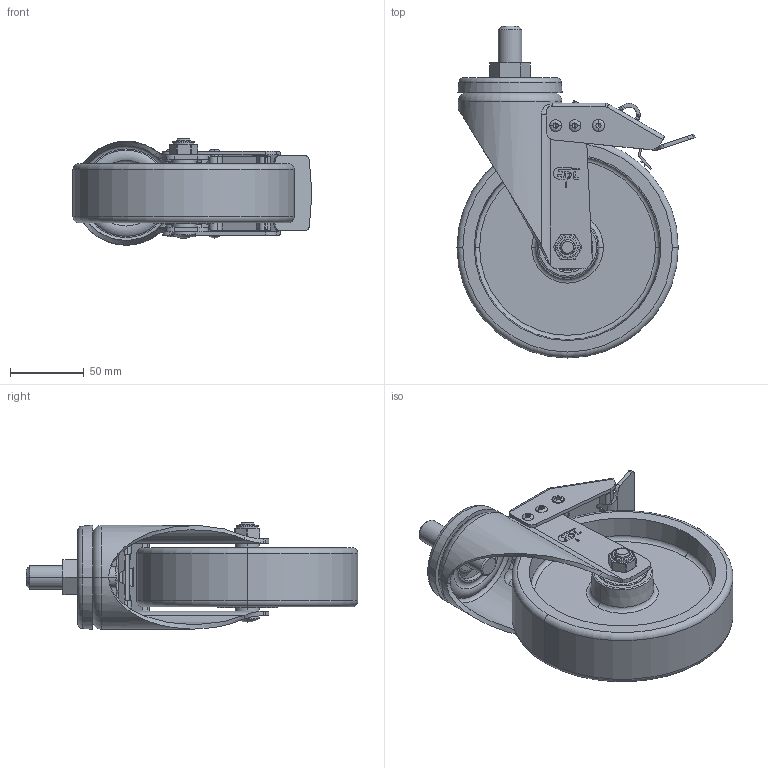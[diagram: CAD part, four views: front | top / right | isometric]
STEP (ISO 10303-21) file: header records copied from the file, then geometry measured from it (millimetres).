
FILE_DESCRIPTION((''),'2;1');
FILE_NAME('66146LM16X25_ASM_1_ASM','2024-04-30T',('Lenovo'),(''),'PRO/ENGINEER BY PARAMETRIC TECHNOLOGY CORPORATION, 2010280','PRO/ENGINEER BY PARAMETRIC TECHNOLOGY CORPORATION, 2010280','');
FILE_SCHEMA(('CONFIG_CONTROL_DESIGN'));
Length unit declared in the file: millimetre
Products named in the file (31): 6610-053M16X25_2; 6610-251_1; 6616-311_3; 676-986A_2; MANIFOLD_SOLID_BREP_14229; MANIFOLD_SOLID_BREP_14597; MANIFOLD_SOLID_BREP_14635; MANIFOLD_SOLID_BREP_14673; MANIFOLD_SOLID_BREP_14711; MANIFOLD_SOLID_BREP_14749; MANIFOLD_SOLID_BREP_14787; MANIFOLD_SOLID_BREP_14825; MANIFOLD_SOLID_BREP_14863; MANIFOLD_SOLID_BREP_14901; MANIFOLD_SOLID_BREP_14939; MANIFOLD_SOLID_BREP_14977; MANIFOLD_SOLID_BREP_15015; MANIFOLD_SOLID_BREP_15053; MANIFOLD_SOLID_BREP_15091; 6201_1_ASM; 500-66_3; 630-54A_1; 676-86A_ASM_1_ASM; 630-33A_3; 630-34_4; 6610L-525_2; 6610-511_2; 6630-401_4; 671-32_4; 670-32_3; 66146LM16X25_ASM_1_ASM
Assembly tree (35 placements, depth 4):
  66146LM16X25_ASM_1_ASM
    6610-053M16X25_2
    6610-251_1
    6616-311_3
    676-86A_ASM_1_ASM
      676-986A_2
      6201_1_ASM  x2
        MANIFOLD_SOLID_BREP_14229
        MANIFOLD_SOLID_BREP_14597
        MANIFOLD_SOLID_BREP_14635
        MANIFOLD_SOLID_BREP_14673
        MANIFOLD_SOLID_BREP_14711
        MANIFOLD_SOLID_BREP_14749
        MANIFOLD_SOLID_BREP_14787
        MANIFOLD_SOLID_BREP_14825
        MANIFOLD_SOLID_BREP_14863
        MANIFOLD_SOLID_BREP_14901
        MANIFOLD_SOLID_BREP_14939
        MANIFOLD_SOLID_BREP_14977
        MANIFOLD_SOLID_BREP_15015
        MANIFOLD_SOLID_BREP_15053
        MANIFOLD_SOLID_BREP_15091
      500-66_3  x2
      630-54A_1
    630-33A_3
    630-34_4
    6610L-525_2
    6610-511_2
    6630-401_4
    671-32_4  x4
    670-32_3
Bounding box: 161.4 x 225 x 72.29 mm (x, y, z)
Volume: 436360.8 mm3; surface area: 173841.4 mm2
Topology: 47 solids, 47 shells, 796 faces, 2173 edges, 1375 vertices
Faces by surface type: plane 289, cylinder 266, sphere 82, torus 77, cone 52, bspline 30
Entity records: 24594 total; most frequent: CARTESIAN_POINT 6406, DIRECTION 3906, ORIENTED_EDGE 3630, EDGE_CURVE 1815, AXIS2_PLACEMENT_3D 1509, VERTEX_POINT 1203, VECTOR 888, LINE 888
